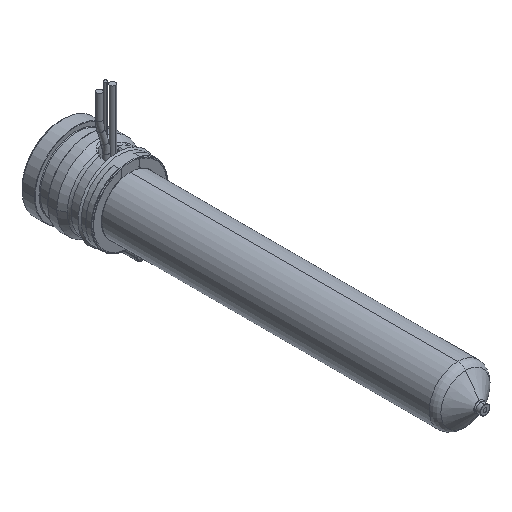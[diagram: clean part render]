
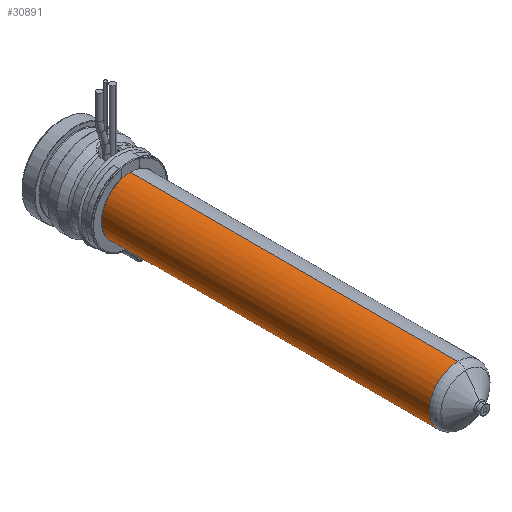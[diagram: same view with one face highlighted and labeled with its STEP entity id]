
A CAD part, isometric view. The second image highlights one B-rep face of the part: STEP entity #30891.
In plain terms, the highlighted cylindrical face has radius 9 mm (diameter 18 mm), a partial arc.
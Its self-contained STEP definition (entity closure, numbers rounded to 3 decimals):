
#30455=CARTESIAN_POINT('',(0.,-125.471,0.));
#30456=DIRECTION('',(0.,-1.,0.));
#30457=DIRECTION('',(0.,0.,1.));
#30458=AXIS2_PLACEMENT_3D('',#30455,#30456,#30457);
#30487=DIRECTION('',(0.,-1.,0.));
#30488=VECTOR('',#30487,103.471);
#30489=CARTESIAN_POINT('',(0.,-22.,9.));
#30490=LINE('',#30489,#30488);
#30502=DIRECTION('',(0.,-1.,0.));
#30503=VECTOR('',#30502,103.471);
#30504=CARTESIAN_POINT('',(0.,-22.,-9.));
#30505=LINE('',#30504,#30503);
#30509=CARTESIAN_POINT('',(0.,-22.,0.));
#30510=DIRECTION('',(0.,-1.,0.));
#30511=DIRECTION('',(0.,0.,1.));
#30512=AXIS2_PLACEMENT_3D('',#30509,#30510,#30511);
#30707=CARTESIAN_POINT('',(0.,-22.,9.));
#30708=CARTESIAN_POINT('',(0.,-125.471,9.));
#30709=VERTEX_POINT('',#30707);
#30710=VERTEX_POINT('',#30708);
#30719=CARTESIAN_POINT('',(0.,-22.,-9.));
#30720=CARTESIAN_POINT('',(0.,-125.471,-9.));
#30721=VERTEX_POINT('',#30719);
#30722=VERTEX_POINT('',#30720);
#30879=CARTESIAN_POINT('',(0.,-12.2,0.));
#30880=DIRECTION('',(0.,-1.,0.));
#30881=DIRECTION('',(0.,0.,1.));
#30882=AXIS2_PLACEMENT_3D('',#30879,#30880,#30881);
#30883=CYLINDRICAL_SURFACE('',#30882,9.);
#30884=ORIENTED_EDGE('',*,*,#30869,.T.);
#30885=ORIENTED_EDGE('',*,*,#30846,.T.);
#30886=ORIENTED_EDGE('',*,*,#30873,.F.);
#30888=ORIENTED_EDGE('',*,*,#30887,.F.);
#30889=EDGE_LOOP('',(#30884,#30885,#30886,#30888));
#30890=FACE_OUTER_BOUND('',#30889,.F.);
#30891=ADVANCED_FACE('',(#30890),#30883,.T.);
#30459=CIRCLE('',#30458,9.);
#30513=CIRCLE('',#30512,9.);
#30846=EDGE_CURVE('',#30710,#30722,#30459,.T.);
#30869=EDGE_CURVE('',#30709,#30710,#30490,.T.);
#30873=EDGE_CURVE('',#30721,#30722,#30505,.T.);
#30887=EDGE_CURVE('',#30709,#30721,#30513,.T.);
